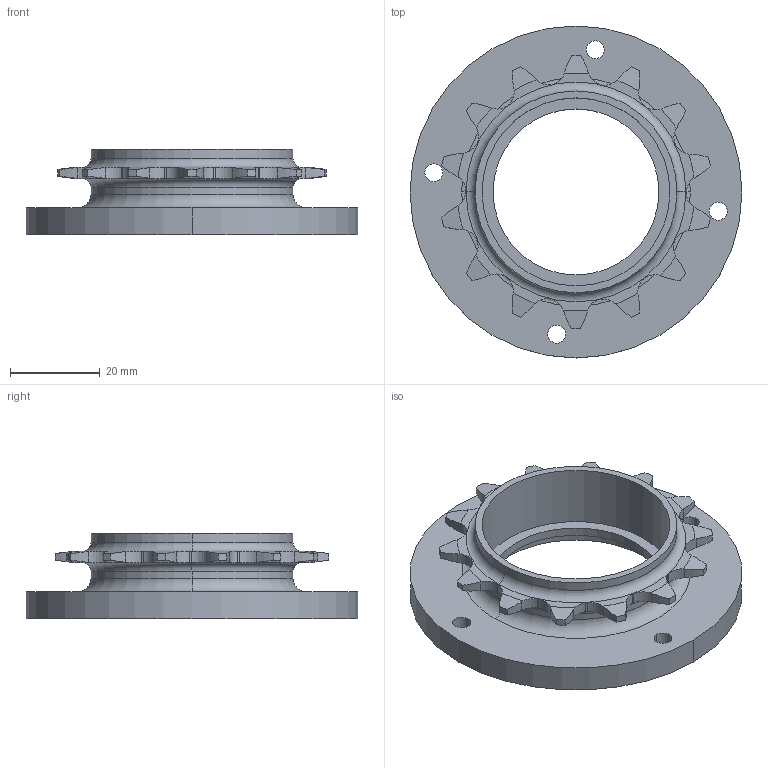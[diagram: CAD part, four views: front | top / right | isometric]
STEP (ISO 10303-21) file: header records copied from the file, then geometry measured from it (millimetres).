
FILE_DESCRIPTION((''),'2;1');
FILE_NAME('420-14T','2016-03-25T',('hag'),(''),'PRO/ENGINEER BY PARAMETRIC TECHNOLOGY CORPORATION, 2012130','PRO/ENGINEER BY PARAMETRIC TECHNOLOGY CORPORATION, 2012130','');
FILE_SCHEMA(('CONFIG_CONTROL_DESIGN'));
Length unit declared in the file: millimetre
Products named in the file (1): 420-14T
Bounding box: 74 x 74 x 19 mm (x, y, z)
Volume: 22812.3 mm3; surface area: 13577.8 mm2
Topology: 1 solids, 1 shells, 145 faces, 408 edges, 270 vertices
Faces by surface type: cylinder 90, cone 28, plane 21, torus 6
Entity records: 5072 total; most frequent: CARTESIAN_POINT 1379, ORIENTED_EDGE 816, DIRECTION 722, EDGE_CURVE 408, AXIS2_PLACEMENT_3D 309, VERTEX_POINT 270, CIRCLE 164, EDGE_LOOP 160
